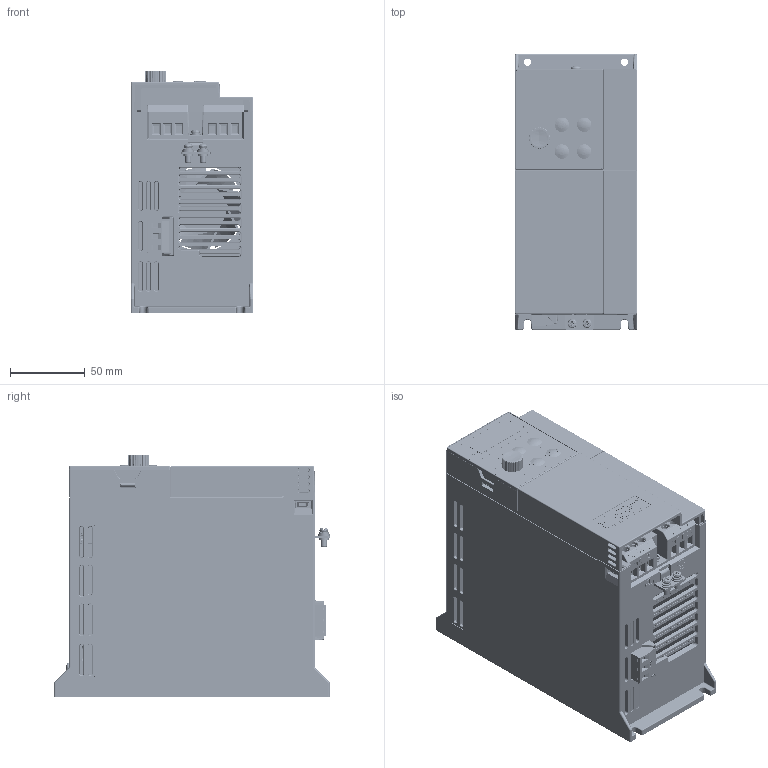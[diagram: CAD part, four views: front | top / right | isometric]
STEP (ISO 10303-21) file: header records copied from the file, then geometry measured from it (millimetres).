
FILE_DESCRIPTION((''),'2;1');
FILE_NAME('AD80-S1-DRIVE_ASM','2025-06-25T17:10:12',('wendong.luo'),(''),'CREO PARAMETRIC BY PTC INC, 2024374','CREO PARAMETRIC BY PTC INC, 2024374','');
FILE_SCHEMA(('CONFIG_CONTROL_DESIGN','GEOMETRIC_VALIDATION_PROPERTIES_MIM'));
Products named in the file (34): AD80-S1-PU-MECHANICAL-PART; E0100292; E0400085; E0400084; E0400074; E0400035; E0400088; E0400086; E0100292_ASM; E0400082; M0100110; M0202003; M0202052; M3-SPRING_FLAT; M3-WASHER; M0202052_ASM; E0400083; M0202000; M0203177; M0104059; M0203053; AD80-S1-PU_ASM; AD80-LCP-MECHANICAL_PART; E0100294; 0805-LED; E0200191; E0200192; E0400038; E0300012; E0400011; E0100294_ASM; M0203065_00; AD80-KP00_ASM; AD80-S1-DRIVE_ASM
Assembly tree (49 placements, depth 4):
  AD80-S1-DRIVE_ASM
    AD80-S1-PU_ASM
      AD80-S1-PU-MECHANICAL-PART
      E0100292_ASM
        E0100292
        E0400085  x3
        E0400084  x2
        E0400074
        E0400035
        E0400088
        E0400086  x3
      E0400082  x2
      M0100110
      M0202003  x2
      M0202052_ASM
        M0202052
        M3-SPRING_FLAT
        M3-WASHER
      E0400083
      M0202000
      M0203177
      M0104059
      M0203053
    AD80-KP00_ASM
      AD80-LCP-MECHANICAL_PART
      E0100294_ASM
        E0100294
        0805-LED  x6
        E0200191
        E0200192
        E0400038  x4
        E0300012
        E0400035
        E0400011
      M0203065_00
Bounding box: 82 x 185.03 x 162.6 mm (x, y, z)
Volume: 385806.1 mm3; surface area: 367827.8 mm2
Topology: 52 solids, 105 shells, 12629 faces, 33957 edges, 22033 vertices
Faces by surface type: plane 7442, cylinder 1992, extrusion 1220, bspline 847, cone 611, torus 292, sphere 225
Entity records: 470499 total; most frequent: CARTESIAN_POINT 122001, ORIENTED_EDGE 56494, DIRECTION 46048, EDGE_CURVE 28379, PRESENTATION_STYLE_ASSIGNMENT 27462, STYLED_ITEM 26669, CURVE_STYLE 26176, VECTOR 19526
